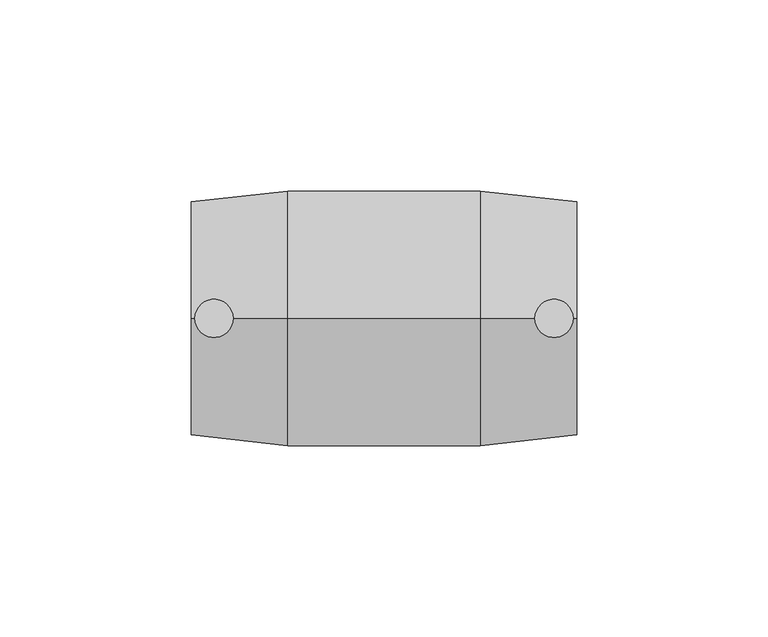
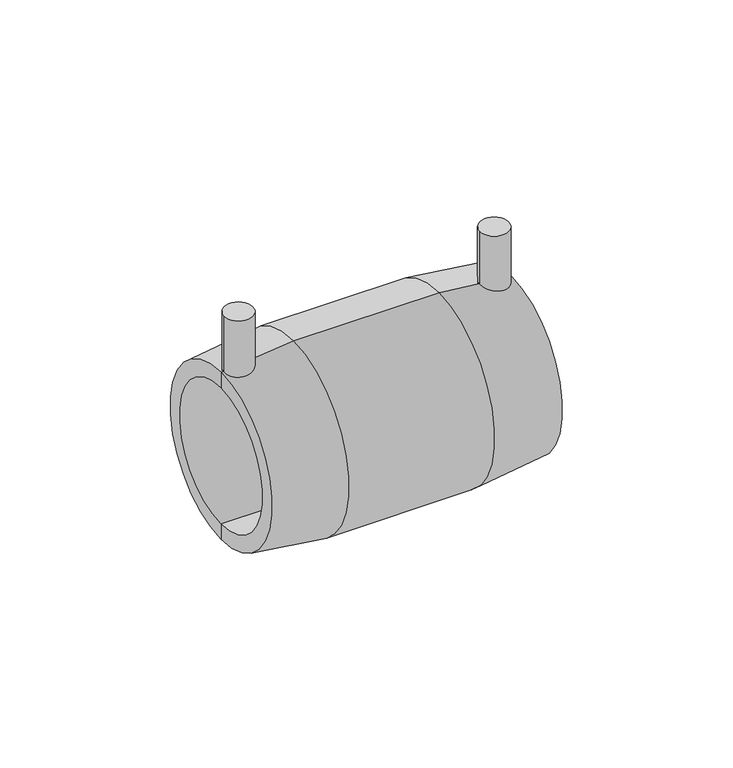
"""IFC4 building model written with IfcOpenShell, lengths in millimetres: pipe fitting geometry, Plumbing_Pipe-Fittings_Plasson_Coupler_490104 : Plumbing_Pipe-Fittings_Plasson_Coupler_490104."""

from ifc_helpers import new_model, si_unit, point, frame, frame_2d, origin, place, context, project, spatial, polyline, circle_curve, trimmed, segment, composite_curve, outline, extrude, source, transform, mapped, element, save
from ifc_brep_helpers import plane_surface, cylinder_surface, revolved_surface, advanced_brep


def pipe_fitting_df91765d(model_context):
    return source(origin(), model_context, "Body", "SolidModel", [
        extrude(outline(composite_curve([segment(trimmed(circle_curve(frame_2d((-44.5, 0.0)), 5.0), [point((-49.5, 0.0))], [point((-39.5, 0.0))], False, "CARTESIAN"), True, "CONTINUOUS"), segment(trimmed(circle_curve(frame_2d((-44.5, 0.0)), 5.0), [point((-39.5, 0.0))], [point((-49.5, 0.0))], False, "CARTESIAN"), True, "CONTINUOUS")], self_intersect=False)), frame((0.0, 0.0, 29.25), z_axis=(0.0, 0.0, 1.0), x_axis=(1.0, 0.0, 0.0)), (0.0, 0.0, 1.0), 21.75),
        extrude(outline(composite_curve([segment(trimmed(circle_curve(frame_2d((44.5, 0.0)), 5.0), [point((39.5, 0.0))], [point((49.5, 0.0))], False, "CARTESIAN"), True, "CONTINUOUS"), segment(trimmed(circle_curve(frame_2d((44.5, 0.0)), 5.0), [point((49.5, 0.0))], [point((39.5, 0.0))], False, "CARTESIAN"), True, "CONTINUOUS")], self_intersect=False)), frame((0.0, 0.0, 29.25), z_axis=(0.0, 0.0, 1.0), x_axis=(1.0, 0.0, 0.0)), (0.0, 0.0, 1.0), 21.75),
        advanced_brep(
        [(-1.5, 0.0, -25.0), (-1.5, 0.0, 25.0), (-50.5, 0.0, 25.0), (-50.5, 0.0, -25.0), (50.5, 0.0, -30.6666667), (50.5, 0.0, 30.6666667), (50.5, 0.0, 25.0), (50.5, 0.0, -25.0), (-25.25, 0.0, -33.5), (-25.25, 0.0, 33.5), (25.25, 0.0, 33.5), (25.25, 0.0, -33.5), (-50.5, 0.0, 30.6666667), (-50.5, 0.0, -30.6666667), (-1.5, 0.0, -22.0), (-1.5, 0.0, 22.0), (1.5, 0.0, -22.0), (1.5, 0.0, 22.0), (1.5, 0.0, -25.0), (1.5, 0.0, 25.0)],
        [
            (0, 1, circle_curve(frame((-1.5, 0.0, 0.0), z_axis=(1.0, 0.0, 0.0), x_axis=(0.0, 0.0, 1.0)), 25.0)),
            (1, 2),
            (2, 3, circle_curve(frame((-50.5, 0.0, 0.0), z_axis=(-1.0, 0.0, 0.0), x_axis=(0.0, 0.0, 1.0)), 25.0)),
            (3, 0),
            (1, 0, circle_curve(frame((-1.5, 0.0, 0.0), z_axis=(1.0, 0.0, 0.0), x_axis=(0.0, 0.0, 1.0)), 25.0)),
            (3, 2, circle_curve(frame((-50.5, 0.0, 0.0), z_axis=(-1.0, 0.0, 0.0), x_axis=(0.0, 0.0, 1.0)), 25.0)),
            (4, 5, circle_curve(frame((50.5, 0.0, 0.0), z_axis=(1.0, 0.0, 0.0), x_axis=(0.0, 0.0, 1.0)), 30.6666667)),
            (5, 6),
            (6, 7, circle_curve(frame((50.5, 0.0, 0.0), z_axis=(-1.0, 0.0, 0.0), x_axis=(0.0, 0.0, 1.0)), 25.0)),
            (7, 4),
            (5, 4, circle_curve(frame((50.5, 0.0, 0.0), z_axis=(1.0, 0.0, 0.0), x_axis=(0.0, 0.0, 1.0)), 30.6666667)),
            (7, 6, circle_curve(frame((50.5, 0.0, 0.0), z_axis=(-1.0, 0.0, 0.0), x_axis=(0.0, 0.0, 1.0)), 25.0)),
            (8, 9, circle_curve(frame((-25.25, 0.0, 0.0), z_axis=(1.0, 0.0, 0.0), x_axis=(0.0, 0.0, 1.0)), 33.5)),
            (9, 10),
            (10, 11, circle_curve(frame((25.25, 0.0, 0.0), z_axis=(-1.0, 0.0, 0.0), x_axis=(0.0, 0.0, 1.0)), 33.5)),
            (11, 8),
            (9, 8, circle_curve(frame((-25.25, 0.0, 0.0), z_axis=(1.0, 0.0, 0.0), x_axis=(0.0, 0.0, 1.0)), 33.5)),
            (11, 10, circle_curve(frame((25.25, 0.0, 0.0), z_axis=(-1.0, 0.0, 0.0), x_axis=(0.0, 0.0, 1.0)), 33.5)),
            (2, 12),
            (12, 13, circle_curve(frame((-50.5, 0.0, 0.0), z_axis=(-1.0, 0.0, 0.0), x_axis=(0.0, 0.0, 1.0)), 30.6666667)),
            (13, 3),
            (13, 12, circle_curve(frame((-50.5, 0.0, 0.0), z_axis=(-1.0, 0.0, 0.0), x_axis=(0.0, 0.0, 1.0)), 30.6666667)),
            (10, 5),
            (4, 11),
            (12, 9),
            (8, 13),
            (14, 15, circle_curve(frame((-1.5, 0.0, 0.0), z_axis=(1.0, 0.0, 0.0), x_axis=(0.0, 0.0, 1.0)), 22.0)),
            (15, 1),
            (0, 14),
            (15, 14, circle_curve(frame((-1.5, 0.0, 0.0), z_axis=(1.0, 0.0, 0.0), x_axis=(0.0, 0.0, 1.0)), 22.0)),
            (16, 17, circle_curve(frame((1.5, 0.0, 0.0), z_axis=(1.0, 0.0, 0.0), x_axis=(0.0, 0.0, 1.0)), 22.0)),
            (17, 15),
            (14, 16),
            (17, 16, circle_curve(frame((1.5, 0.0, 0.0), z_axis=(1.0, 0.0, 0.0), x_axis=(0.0, 0.0, 1.0)), 22.0)),
            (18, 19, circle_curve(frame((1.5, 0.0, 0.0), z_axis=(1.0, 0.0, 0.0), x_axis=(0.0, 0.0, 1.0)), 25.0)),
            (19, 17),
            (16, 18),
            (19, 18, circle_curve(frame((1.5, 0.0, 0.0), z_axis=(1.0, 0.0, 0.0), x_axis=(0.0, 0.0, 1.0)), 25.0)),
            (6, 19),
            (18, 7),
        ],
        [
            revolved_surface(polyline([(-50.5, 0.0, 25.0), (-1.5, 0.0, 25.0)]), (-50.5, 0.0, 0.0), (-1.0, 0.0, 0.0)),
            plane_surface(frame((50.5, 0.0, 0.0), z_axis=(1.0, 0.0, 0.0), x_axis=(0.0, 0.0, 1.0))),
            cylinder_surface(frame((-50.5, 0.0, 0.0), z_axis=(-1.0, 0.0, 0.0), x_axis=(0.0, 0.0, 1.0)), 33.5),
            plane_surface(frame((-50.5, 0.0, 0.0), z_axis=(-1.0, 0.0, 0.0), x_axis=(0.0, 0.0, 1.0))),
            revolved_surface(polyline([(50.5, 0.0, 30.6666667), (25.25, 0.0, 33.5)]), (-50.5, 0.0, 0.0), (-1.0, 0.0, 0.0)),
            revolved_surface(polyline([(-25.25, 0.0, 33.5), (-50.5, 0.0, 30.6666667)]), (-50.5, 0.0, 0.0), (-1.0, 0.0, 0.0)),
            plane_surface(frame((-1.5, 0.0, 0.0), z_axis=(-1.0, 0.0, 0.0), x_axis=(0.0, 0.0, 1.0))),
            revolved_surface(polyline([(-1.5, 0.0, 22.0), (1.5, 0.0, 22.0)]), (-50.5, 0.0, 0.0), (-1.0, 0.0, 0.0)),
            plane_surface(frame((1.5, 0.0, 0.0), z_axis=(1.0, 0.0, 0.0), x_axis=(0.0, 0.0, 1.0))),
            revolved_surface(polyline([(1.5, 0.0, 25.0), (50.5, 0.0, 25.0)]), (-50.5, 0.0, 0.0), (-1.0, 0.0, 0.0)),
        ],
        [
            (0, [[1, 2, 3, 4]]),
            (0, [[5, -4, 6, -2]]),
            (1, [[7, 8, 9, 10]]),
            (1, [[11, -10, 12, -8]]),
            (2, [[13, 14, 15, 16]]),
            (2, [[17, -16, 18, -14]]),
            (3, [[-3, 19, 20, 21]]),
            (3, [[-6, -21, 22, -19]]),
            (4, [[-15, 23, -7, 24]]),
            (4, [[-18, -24, -11, -23]]),
            (5, [[-20, 25, -13, 26]]),
            (5, [[-22, -26, -17, -25]]),
            (6, [[27, 28, -1, 29]]),
            (6, [[30, -29, -5, -28]]),
            (7, [[31, 32, -27, 33]]),
            (7, [[34, -33, -30, -32]]),
            (8, [[35, 36, -31, 37]]),
            (8, [[38, -37, -34, -36]]),
            (9, [[-9, 39, -35, 40]]),
            (9, [[-12, -40, -38, -39]]),
        ],
    ),
    ])


if __name__ == "__main__":
    model = new_model("IFC4")
    model_context = context("Model", 3, world=origin())
    ifc_project = project(units=[si_unit("LENGTHUNIT", "METRE", prefix="MILLI")], contexts=[model_context])
    site = spatial("IfcSite", under=ifc_project)
    building = spatial("IfcBuilding", under=site)
    placement = place(None, origin())
    pipe_fitting_shape = pipe_fitting_df91765d(model_context)
    element("IfcPipeFitting", 1, ObjectType="Plumbing_Pipe-Fittings_Plasson_Coupler_490104 : Plumbing_Pipe-Fittings_Plasson_Coupler_490104", at=placement, inside=building, context=model_context, shape_type="MappedRepresentation", body=[
        mapped(pipe_fitting_shape, transform((0.0, 0.0, 0.0), x_axis=(1.0, 0.0, 0.0), y_axis=(0.0, 1.0, 0.0), z_axis=(0.0, 0.0, 1.0))),
    ])
    save(model, "model.ifc")
